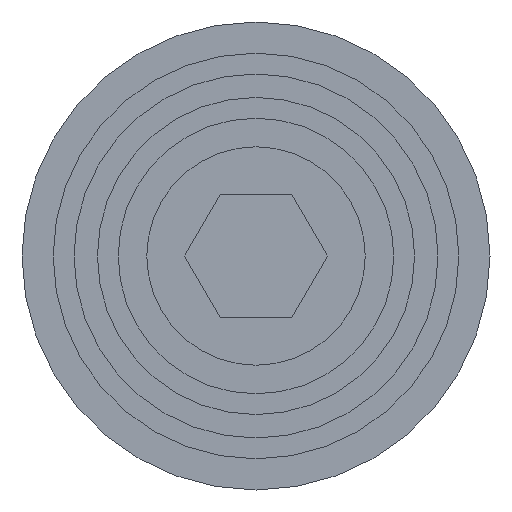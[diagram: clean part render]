
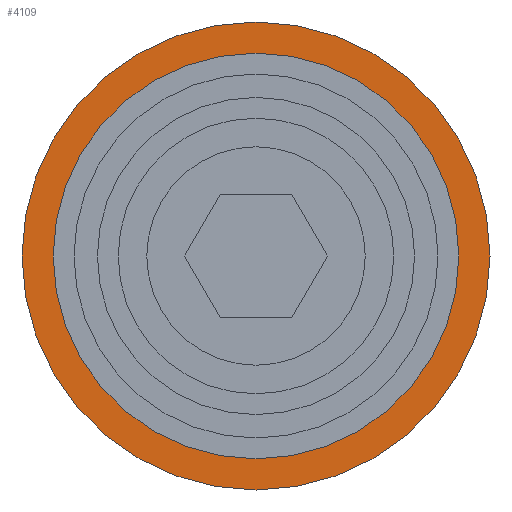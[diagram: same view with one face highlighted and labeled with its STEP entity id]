
A CAD part, front view. The second image highlights one B-rep face of the part: STEP entity #4109.
In plain terms, the highlighted planar face has unit normal (0, -1, 0).
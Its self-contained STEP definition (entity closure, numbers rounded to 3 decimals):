
#262 = DIRECTION ( 'NONE',  ( 0., 0., 1. ) ) ;
#711 = CIRCLE ( 'NONE', #2868, 45. ) ;
#725 = VERTEX_POINT ( 'NONE', #9886 ) ;
#804 = CIRCLE ( 'NONE', #3410, 39. ) ;
#1604 = VERTEX_POINT ( 'NONE', #10910 ) ;
#1610 = CIRCLE ( 'NONE', #10783, 45. ) ;
#1708 = CARTESIAN_POINT ( 'NONE',  ( 0., 0., 0. ) ) ;
#1730 = ORIENTED_EDGE ( 'NONE', *, *, #11317, .F. ) ;
#1822 = DIRECTION ( 'NONE',  ( 0., 1., 0. ) ) ;
#2034 = ORIENTED_EDGE ( 'NONE', *, *, #5039, .F. ) ;
#2355 = EDGE_CURVE ( 'NONE', #1604, #725, #1610, .T. ) ;
#2494 = EDGE_CURVE ( 'NONE', #725, #1604, #711, .T. ) ;
#2690 = DIRECTION ( 'NONE',  ( 0., 0., -1. ) ) ;
#2868 = AXIS2_PLACEMENT_3D ( 'NONE', #7539, #1822, #8518 ) ;
#3054 = CARTESIAN_POINT ( 'NONE',  ( 0., 0., -39. ) ) ;
#3410 = AXIS2_PLACEMENT_3D ( 'NONE', #1708, #8406, #2690 ) ;
#3992 = FACE_OUTER_BOUND ( 'NONE', #10442, .T. ) ;
#4012 = VERTEX_POINT ( 'NONE', #11551 ) ;
#4109 = ADVANCED_FACE ( 'NONE', ( #5616, #3992 ), #5055, .F. ) ;
#4696 = VERTEX_POINT ( 'NONE', #3054 ) ;
#4874 = CIRCLE ( 'NONE', #5015, 39. ) ;
#5015 = AXIS2_PLACEMENT_3D ( 'NONE', #5415, #12121, #6388 ) ;
#5039 = EDGE_CURVE ( 'NONE', #4012, #4696, #4874, .T. ) ;
#5055 = PLANE ( 'NONE',  #8708 ) ;
#5415 = CARTESIAN_POINT ( 'NONE',  ( 0., 0., 0. ) ) ;
#5616 = FACE_BOUND ( 'NONE', #12116, .T. ) ;
#6006 = DIRECTION ( 'NONE',  ( 0., 1., 0. ) ) ;
#6027 = DIRECTION ( 'NONE',  ( 0., 0., 1. ) ) ;
#6388 = DIRECTION ( 'NONE',  ( 0., 0., -1. ) ) ;
#7539 = CARTESIAN_POINT ( 'NONE',  ( 0., 0., 0. ) ) ;
#8406 = DIRECTION ( 'NONE',  ( 0., -1., 0. ) ) ;
#8518 = DIRECTION ( 'NONE',  ( 0., 0., 1. ) ) ;
#8708 = AXIS2_PLACEMENT_3D ( 'NONE', #10798, #11762, #6027 ) ;
#9886 = CARTESIAN_POINT ( 'NONE',  ( 0., 0., 45. ) ) ;
#10442 = EDGE_LOOP ( 'NONE', ( #12078, #12380 ) ) ;
#10783 = AXIS2_PLACEMENT_3D ( 'NONE', #11739, #6006, #262 ) ;
#10798 = CARTESIAN_POINT ( 'NONE',  ( 45., 0., 0. ) ) ;
#10910 = CARTESIAN_POINT ( 'NONE',  ( 0., 0., -45. ) ) ;
#11317 = EDGE_CURVE ( 'NONE', #4696, #4012, #804, .T. ) ;
#11551 = CARTESIAN_POINT ( 'NONE',  ( 0., 0., 39. ) ) ;
#11739 = CARTESIAN_POINT ( 'NONE',  ( 0., 0., 0. ) ) ;
#11762 = DIRECTION ( 'NONE',  ( 0., 1., 0. ) ) ;
#12078 = ORIENTED_EDGE ( 'NONE', *, *, #2494, .F. ) ;
#12116 = EDGE_LOOP ( 'NONE', ( #1730, #2034 ) ) ;
#12121 = DIRECTION ( 'NONE',  ( 0., -1., 0. ) ) ;
#12380 = ORIENTED_EDGE ( 'NONE', *, *, #2355, .F. ) ;
